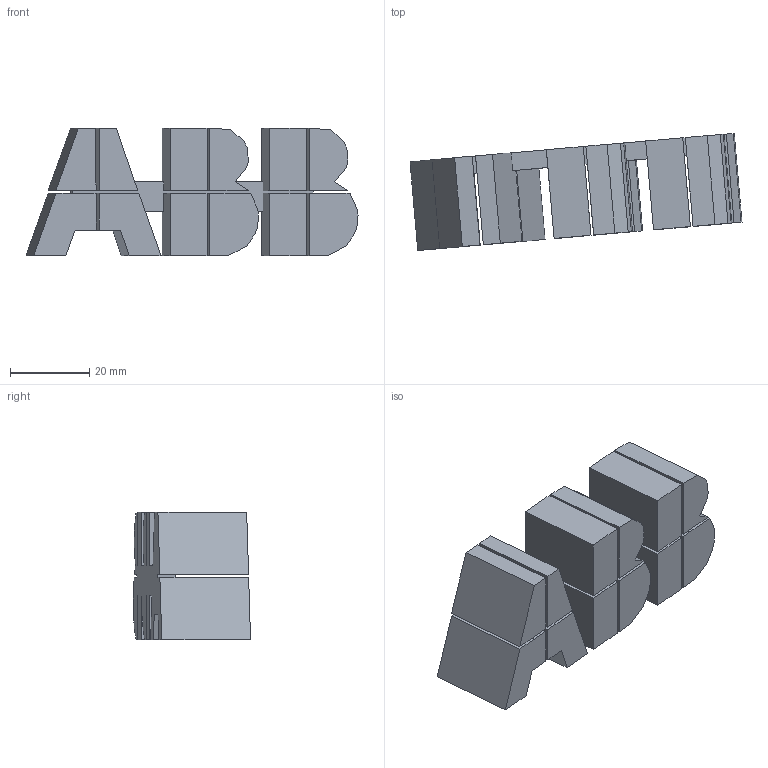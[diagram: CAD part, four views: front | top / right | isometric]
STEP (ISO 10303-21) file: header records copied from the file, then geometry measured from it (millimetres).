
FILE_DESCRIPTION (( 'STEP AP214' ), '1' );
FILE_NAME ('IRB4400_60-195_IRC5_rev02_LOGO04_CAD.STEP', '2016-11-03T06:48:44', ( 'ABB' ), ( 'ABB' ), 'SwSTEP 2.0', 'SolidWorks 2014', '' );
FILE_SCHEMA (( 'AUTOMOTIVE_DESIGN' ));
Length unit declared in the file: millimetre
Products named in the file (1): IRB4400_60-195_IRC5_rev02_LOGO04_CAD
Bounding box: 83.85 x 29.58 x 32.32 mm (x, y, z)
Volume: 39909.7 mm3; surface area: 16948 mm2
Topology: 1 solids, 1 shells, 104 faces, 299 edges, 197 vertices
Faces by surface type: plane 104
Entity records: 3361 total; most frequent: CARTESIAN_POINT 601, ORIENTED_EDGE 598, DIRECTION 509, LINE 299, EDGE_CURVE 299, VECTOR 299, VERTEX_POINT 197, AXIS2_PLACEMENT_3D 105
